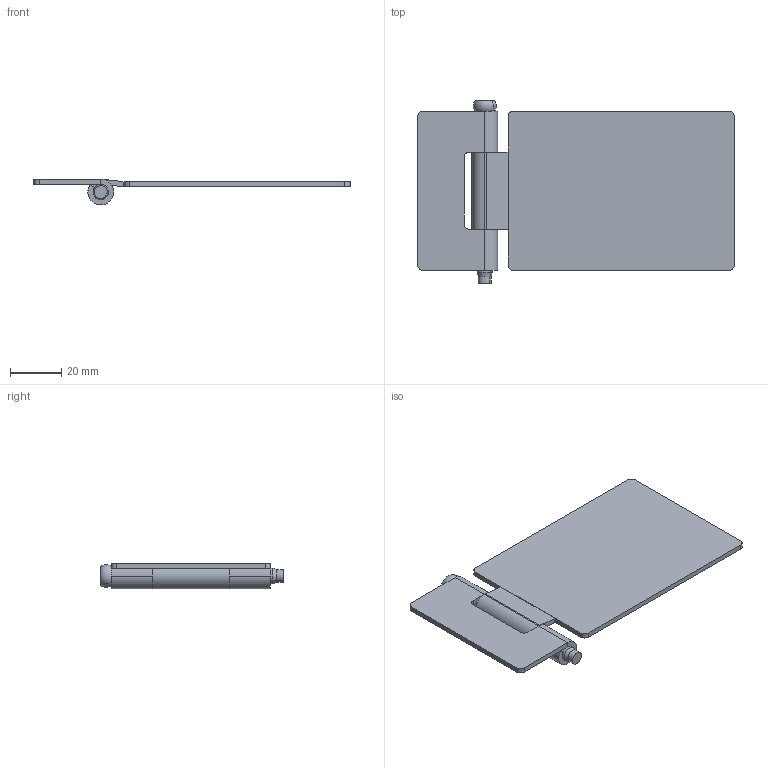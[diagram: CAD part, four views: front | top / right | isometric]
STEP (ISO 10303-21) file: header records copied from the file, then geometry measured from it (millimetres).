
FILE_DESCRIPTION (( 'STEP AP214' ), '1' );
FILE_NAME ('SK2-048-1.STEP', '2020-04-14T07:08:00', ( 'admin' ), ( 'Microsoft' ), 'SwSTEP 2.0', 'SolidWorks 2018', '' );
FILE_SCHEMA (( 'AUTOMOTIVE_DESIGN' ));
Length unit declared in the file: millimetre
Products named in the file (4): 2-048-1-F3; 2-048-1-F2; 2-048-1-F1; SK2-048-1
Assembly tree (3 placements, depth 2):
  SK2-048-1
    2-048-1-F1
    2-048-1-F2
    2-048-1-F3
Bounding box: 123 x 71 x 10 mm (x, y, z)
Volume: 18891.8 mm3; surface area: 19506.9 mm2
Topology: 3 solids, 3 shells, 67 faces, 160 edges, 100 vertices
Faces by surface type: cylinder 32, plane 31, cone 2, torus 2
Entity records: 2098 total; most frequent: DIRECTION 376, CARTESIAN_POINT 333, ORIENTED_EDGE 320, EDGE_CURVE 160, AXIS2_PLACEMENT_3D 143, VERTEX_POINT 100, LINE 90, VECTOR 90
